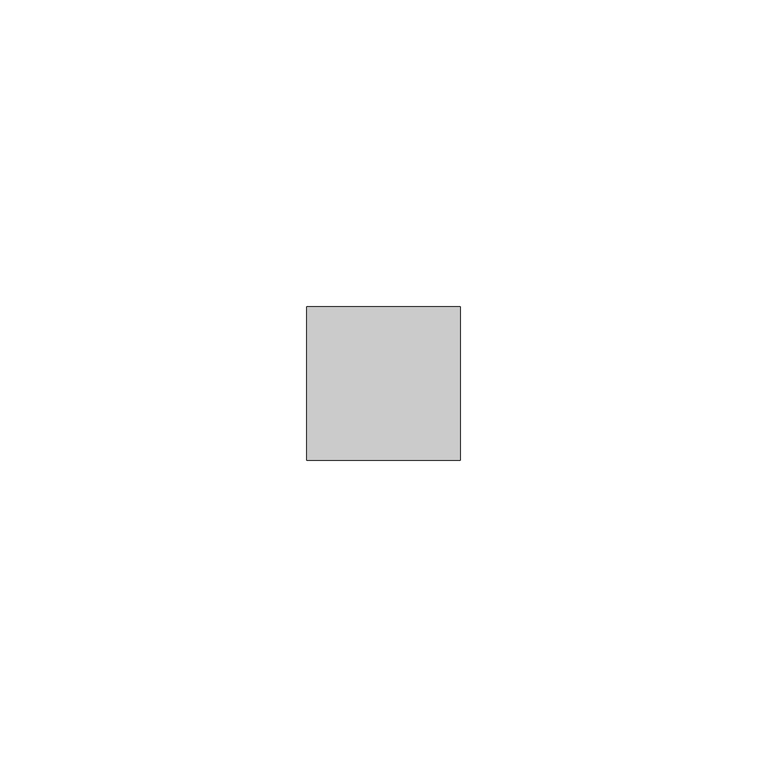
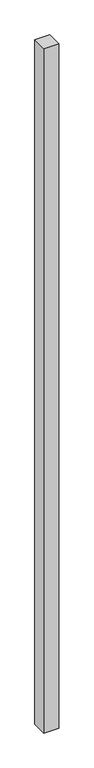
"""IFC4 building model written with IfcOpenShell, lengths in millimetres: member geometry, Obdélníková příčel : VERTI AERO."""

from ifc_helpers import new_model, si_unit, frame, origin, place, context, project, spatial, polyline, outline, extrude, source, transform, mapped, element, save


def member_fadf13b5(model_context):
    return source(origin(), model_context, "Body", "SweptSolid", [
        extrude(outline(polyline([(-25.0, 12.5), (0.0, 12.5), (0.0, -12.5), (-25.0, -12.5), (-25.0, 12.5)])), frame((0.0, 0.0, -1200.0), z_axis=(0.0, 0.0, 1.0), x_axis=(1.0, 0.0, 0.0)), (0.0, 0.0, 1.0), 1200.0),
    ])


if __name__ == "__main__":
    model = new_model("IFC4")
    model_context = context("Model", 3, world=origin())
    ifc_project = project(units=[si_unit("LENGTHUNIT", "METRE", prefix="MILLI")], contexts=[model_context])
    site = spatial("IfcSite", under=ifc_project)
    building = spatial("IfcBuilding", under=site)
    placement = place(None, origin())
    member_shape = member_fadf13b5(model_context)
    element("IfcMember", 1, ObjectType="Obdélníková příčel : VERTI AERO", at=placement, inside=building, context=model_context, shape_type="MappedRepresentation", body=[
        mapped(member_shape, transform((0.0, 0.0, 0.0), x_axis=(1.0, 0.0, 0.0), y_axis=(0.0, 1.0, 0.0), z_axis=(0.0, 0.0, 1.0))),
    ])
    save(model, "model.ifc")
